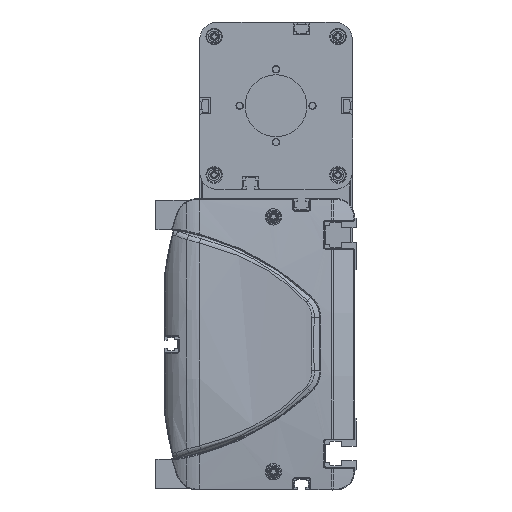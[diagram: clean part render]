
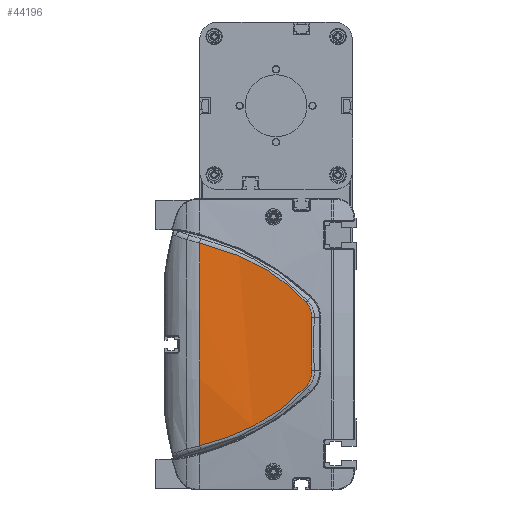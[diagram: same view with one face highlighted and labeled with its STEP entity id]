
A CAD part, left-side view. The second image highlights one B-rep face of the part: STEP entity #44196.
In plain terms, the highlighted cylindrical face has radius 600 mm (diameter 1200 mm), a partial arc.
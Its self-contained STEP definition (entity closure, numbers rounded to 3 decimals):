
#15357=CARTESIAN_POINT('',(-12.406,86.,
55.736));
#15358=CARTESIAN_POINT('',(-12.529,80.495,
54.41));
#15359=CARTESIAN_POINT('',(-12.828,69.636,
51.114));
#15360=CARTESIAN_POINT('',(-13.389,54.079,
44.179));
#15361=CARTESIAN_POINT('',(-14.01,39.709,
34.979));
#15362=CARTESIAN_POINT('',(-14.395,31.353,
27.243));
#15363=CARTESIAN_POINT('',(-14.555,27.451,
23.113));
#15365=CARTESIAN_POINT('',(-14.555,27.451,
23.113));
#15366=CARTESIAN_POINT('',(-14.598,26.394,
21.994));
#15367=CARTESIAN_POINT('',(-14.695,24.746,
19.315));
#15368=CARTESIAN_POINT('',(-14.783,24.276,
16.208));
#15369=CARTESIAN_POINT('',(-14.821,24.351,
14.67));
#15371=CARTESIAN_POINT('',(-14.821,24.351,
14.67));
#15372=CARTESIAN_POINT('',(-14.9,24.51,
11.413));
#15373=CARTESIAN_POINT('',(-15.007,24.721,
4.895));
#15374=CARTESIAN_POINT('',(-15.007,24.721,
-4.895));
#15375=CARTESIAN_POINT('',(-14.9,24.51,
-11.413));
#15376=CARTESIAN_POINT('',(-14.821,24.351,
-14.67));
#15378=CARTESIAN_POINT('',(-14.821,24.351,
-14.67));
#15379=CARTESIAN_POINT('',(-14.783,24.276,
-16.208));
#15380=CARTESIAN_POINT('',(-14.695,24.746,
-19.315));
#15381=CARTESIAN_POINT('',(-14.598,26.394,
-21.995));
#15382=CARTESIAN_POINT('',(-14.555,27.451,
-23.113));
#15384=CARTESIAN_POINT('',(-14.555,27.451,
-23.113));
#15385=CARTESIAN_POINT('',(-14.395,31.353,
-27.243));
#15386=CARTESIAN_POINT('',(-14.01,39.709,
-34.979));
#15387=CARTESIAN_POINT('',(-13.389,54.079,
-44.179));
#15388=CARTESIAN_POINT('',(-12.828,69.636,
-51.114));
#15389=CARTESIAN_POINT('',(-12.529,80.495,
-54.41));
#15390=CARTESIAN_POINT('',(-12.406,86.,
-55.736));
#15392=CARTESIAN_POINT('',(585.,86.,0.));
#15393=DIRECTION('',(0.,1.,0.));
#15394=DIRECTION('',(-0.996,0.,-0.093));
#15395=AXIS2_PLACEMENT_3D('',#15392,#15393,#15394);
#15408=CARTESIAN_POINT('',(-12.406,86.,
55.736));
#20479=VERTEX_POINT('',#15408);
#20480=CARTESIAN_POINT('',(-12.406,86.,
-55.736));
#20481=VERTEX_POINT('',#20480);
#20531=VERTEX_POINT('',#15363);
#20532=VERTEX_POINT('',#15369);
#20533=VERTEX_POINT('',#15376);
#20534=VERTEX_POINT('',#15382);
#44178=CARTESIAN_POINT('',(585.,87.45,0.));
#44179=DIRECTION('',(0.,-1.,0.));
#44180=DIRECTION('',(0.,0.,-1.));
#44181=AXIS2_PLACEMENT_3D('',#44178,#44179,#44180);
#44182=CYLINDRICAL_SURFACE('',#44181,600.);
#44184=ORIENTED_EDGE('',*,*,#44183,.T.);
#44186=ORIENTED_EDGE('',*,*,#44185,.T.);
#44187=ORIENTED_EDGE('',*,*,#44168,.T.);
#44189=ORIENTED_EDGE('',*,*,#44188,.T.);
#44191=ORIENTED_EDGE('',*,*,#44190,.T.);
#44193=ORIENTED_EDGE('',*,*,#44192,.T.);
#44194=EDGE_LOOP('',(#44184,#44186,#44187,#44189,#44191,#44193));
#44195=FACE_OUTER_BOUND('',#44194,.F.);
#44196=ADVANCED_FACE('',(#44195),#44182,.T.);
#15364=B_SPLINE_CURVE_WITH_KNOTS('',3,(#15357,#15358,#15359,#15360,#15361,
#15362,#15363),.UNSPECIFIED.,.F.,.F.,(4,1,1,1,4),(0.,0.25,0.5,0.75,
1.),.UNSPECIFIED.);
#15370=B_SPLINE_CURVE_WITH_KNOTS('',3,(#15365,#15366,#15367,#15368,#15369),
.UNSPECIFIED.,.F.,.F.,(4,1,4),(0.,0.5,1.),.UNSPECIFIED.);
#15377=B_SPLINE_CURVE_WITH_KNOTS('',3,(#15371,#15372,#15373,#15374,#15375,
#15376),.UNSPECIFIED.,.F.,.F.,(4,1,1,4),(0.,0.333,
0.667,1.),.UNSPECIFIED.);
#15383=B_SPLINE_CURVE_WITH_KNOTS('',3,(#15378,#15379,#15380,#15381,#15382),
.UNSPECIFIED.,.F.,.F.,(4,1,4),(0.,0.5,1.),.UNSPECIFIED.);
#15391=B_SPLINE_CURVE_WITH_KNOTS('',3,(#15384,#15385,#15386,#15387,#15388,
#15389,#15390),.UNSPECIFIED.,.F.,.F.,(4,1,1,1,4),(0.,0.25,0.5,0.75,
1.),.UNSPECIFIED.);
#15396=CIRCLE('',#15395,600.);
#44168=EDGE_CURVE('',#20532,#20533,#15377,.T.);
#44183=EDGE_CURVE('',#20479,#20531,#15364,.T.);
#44185=EDGE_CURVE('',#20531,#20532,#15370,.T.);
#44188=EDGE_CURVE('',#20533,#20534,#15383,.T.);
#44190=EDGE_CURVE('',#20534,#20481,#15391,.T.);
#44192=EDGE_CURVE('',#20481,#20479,#15396,.T.);
